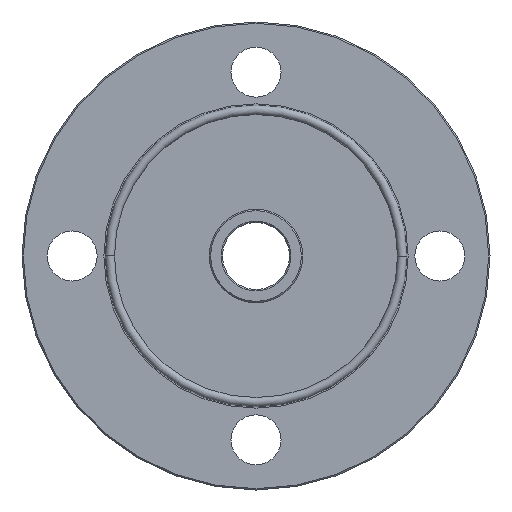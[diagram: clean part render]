
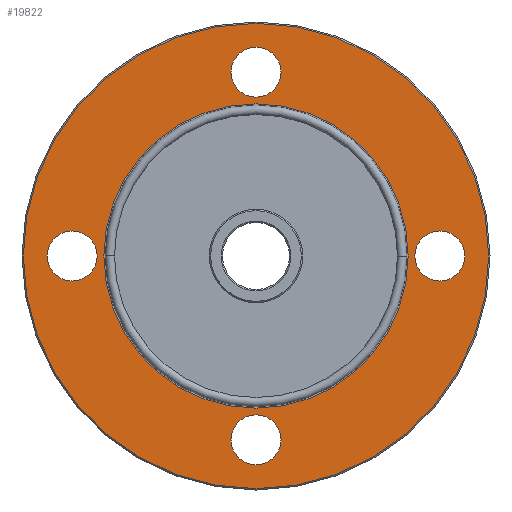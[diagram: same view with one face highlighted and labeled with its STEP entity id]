
A CAD part, left-side view. The second image highlights one B-rep face of the part: STEP entity #19822.
In plain terms, the highlighted planar face has unit normal (-1, 0, 0).
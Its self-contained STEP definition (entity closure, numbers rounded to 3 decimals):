
#401 = DIRECTION ( 'NONE',  ( 0., -1., 0. ) ) ;
#402 = DIRECTION ( 'NONE',  ( -1., 0., 0. ) ) ;
#403 = CARTESIAN_POINT ( 'NONE',  ( 0., 0., 0. ) ) ;
#404 = AXIS2_PLACEMENT_3D ( 'NONE', #403, #402, #401 ) ;
#405 = CIRCLE ( 'NONE', #404, 88.4 ) ;
#406 = DIRECTION ( 'NONE',  ( 0., -1., 0. ) ) ;
#407 = DIRECTION ( 'NONE',  ( -1., 0., 0. ) ) ;
#408 = CARTESIAN_POINT ( 'NONE',  ( 0., 0., 0. ) ) ;
#409 = AXIS2_PLACEMENT_3D ( 'NONE', #408, #407, #406 ) ;
#410 = PLANE ( 'NONE',  #409 ) ;
#411 = FACE_BOUND ( 'NONE', #19867, .T. ) ;
#412 = FACE_BOUND ( 'NONE', #19890, .T. ) ;
#413 = FACE_BOUND ( 'NONE', #19886, .T. ) ;
#414 = FACE_BOUND ( 'NONE', #19882, .T. ) ;
#415 = FACE_BOUND ( 'NONE', #19827, .T. ) ;
#416 = FACE_OUTER_BOUND ( 'NONE', #19823, .T. ) ;
#493 = DIRECTION ( 'NONE',  ( -1., 0., 0. ) ) ;
#494 = CARTESIAN_POINT ( 'NONE',  ( 0., 0., -69.85 ) ) ;
#495 = AXIS2_PLACEMENT_3D ( 'NONE', #494, #493, #551 ) ;
#496 = CIRCLE ( 'NONE', #495, 9.5 ) ;
#497 = DIRECTION ( 'NONE',  ( 0., -1., 0. ) ) ;
#498 = DIRECTION ( 'NONE',  ( -1., 0., 0. ) ) ;
#499 = CARTESIAN_POINT ( 'NONE',  ( 0., 69.85, 0. ) ) ;
#500 = AXIS2_PLACEMENT_3D ( 'NONE', #499, #498, #497 ) ;
#501 = CIRCLE ( 'NONE', #500, 9.5 ) ;
#513 = DIRECTION ( 'NONE',  ( 0., -1., 0. ) ) ;
#514 = DIRECTION ( 'NONE',  ( -1., 0., 0. ) ) ;
#515 = CARTESIAN_POINT ( 'NONE',  ( 0., 0., 0. ) ) ;
#516 = AXIS2_PLACEMENT_3D ( 'NONE', #515, #514, #513 ) ;
#517 = CIRCLE ( 'NONE', #516, 57.8 ) ;
#541 = DIRECTION ( 'NONE',  ( 0., 0., -1. ) ) ;
#542 = DIRECTION ( 'NONE',  ( -1., 0., 0. ) ) ;
#543 = CARTESIAN_POINT ( 'NONE',  ( 0., 0., 69.85 ) ) ;
#544 = AXIS2_PLACEMENT_3D ( 'NONE', #543, #542, #541 ) ;
#545 = CIRCLE ( 'NONE', #544, 9.5 ) ;
#546 = DIRECTION ( 'NONE',  ( 0., 1., 0. ) ) ;
#547 = DIRECTION ( 'NONE',  ( -1., 0., 0. ) ) ;
#548 = CARTESIAN_POINT ( 'NONE',  ( 0., -69.85, 0. ) ) ;
#549 = AXIS2_PLACEMENT_3D ( 'NONE', #548, #547, #546 ) ;
#550 = CIRCLE ( 'NONE', #549, 9.5 ) ;
#551 = DIRECTION ( 'NONE',  ( 0., 0., 1. ) ) ;
#18193 = VERTEX_POINT ( 'NONE', #26327 ) ;
#18225 = VERTEX_POINT ( 'NONE', #26400 ) ;
#18259 = VERTEX_POINT ( 'NONE', #26490 ) ;
#18261 = EDGE_CURVE ( 'NONE', #18259, #18262, #26489, .T. ) ;
#18262 = VERTEX_POINT ( 'NONE', #26484 ) ;
#18271 = VERTEX_POINT ( 'NONE', #26525 ) ;
#18284 = VERTEX_POINT ( 'NONE', #26554 ) ;
#18286 = EDGE_CURVE ( 'NONE', #18284, #18287, #26553, .T. ) ;
#18287 = VERTEX_POINT ( 'NONE', #26596 ) ;
#18296 = EDGE_CURVE ( 'NONE', #18271, #18225, #26579, .T. ) ;
#18301 = VERTEX_POINT ( 'NONE', #26627 ) ;
#18302 = EDGE_CURVE ( 'NONE', #18193, #18301, #26625, .T. ) ;
#18304 = EDGE_CURVE ( 'NONE', #18310, #18308, #26620, .T. ) ;
#18308 = VERTEX_POINT ( 'NONE', #26616 ) ;
#18310 = VERTEX_POINT ( 'NONE', #26611 ) ;
#19147 = EDGE_CURVE ( 'NONE', #19148, #19149, #33139, .T. ) ;
#19148 = VERTEX_POINT ( 'NONE', #33196 ) ;
#19149 = VERTEX_POINT ( 'NONE', #33195 ) ;
#19822 = ADVANCED_FACE ( 'NONE', ( #416, #415, #414, #413, #412, #411 ), #410, .T. ) ;
#19823 = EDGE_LOOP ( 'NONE', ( #19824, #19826 ) ) ;
#19824 = ORIENTED_EDGE ( 'NONE', *, *, #19825, .T. ) ;
#19825 = EDGE_CURVE ( 'NONE', #19149, #19148, #405, .T. ) ;
#19826 = ORIENTED_EDGE ( 'NONE', *, *, #19147, .T. ) ;
#19827 = EDGE_LOOP ( 'NONE', ( #19879, #19881 ) ) ;
#19866 = ORIENTED_EDGE ( 'NONE', *, *, #18261, .F. ) ;
#19867 = EDGE_LOOP ( 'NONE', ( #19868, #19870 ) ) ;
#19868 = ORIENTED_EDGE ( 'NONE', *, *, #19869, .F. ) ;
#19869 = EDGE_CURVE ( 'NONE', #18287, #18284, #517, .T. ) ;
#19870 = ORIENTED_EDGE ( 'NONE', *, *, #18286, .F. ) ;
#19879 = ORIENTED_EDGE ( 'NONE', *, *, #19880, .F. ) ;
#19880 = EDGE_CURVE ( 'NONE', #18308, #18310, #501, .T. ) ;
#19881 = ORIENTED_EDGE ( 'NONE', *, *, #18304, .F. ) ;
#19882 = EDGE_LOOP ( 'NONE', ( #19883, #19885 ) ) ;
#19883 = ORIENTED_EDGE ( 'NONE', *, *, #19884, .F. ) ;
#19884 = EDGE_CURVE ( 'NONE', #18301, #18193, #496, .T. ) ;
#19885 = ORIENTED_EDGE ( 'NONE', *, *, #18302, .F. ) ;
#19886 = EDGE_LOOP ( 'NONE', ( #19887, #19889 ) ) ;
#19887 = ORIENTED_EDGE ( 'NONE', *, *, #19888, .F. ) ;
#19888 = EDGE_CURVE ( 'NONE', #18225, #18271, #550, .T. ) ;
#19889 = ORIENTED_EDGE ( 'NONE', *, *, #18296, .F. ) ;
#19890 = EDGE_LOOP ( 'NONE', ( #19891, #19866 ) ) ;
#19891 = ORIENTED_EDGE ( 'NONE', *, *, #19892, .F. ) ;
#19892 = EDGE_CURVE ( 'NONE', #18262, #18259, #545, .T. ) ;
#26327 = CARTESIAN_POINT ( 'NONE',  ( 0., 9.5, -69.85 ) ) ;
#26400 = CARTESIAN_POINT ( 'NONE',  ( 0., -79.35, 0. ) ) ;
#26484 = CARTESIAN_POINT ( 'NONE',  ( 0., -9.5, 69.85 ) ) ;
#26485 = DIRECTION ( 'NONE',  ( 0., 0., -1. ) ) ;
#26486 = DIRECTION ( 'NONE',  ( -1., 0., 0. ) ) ;
#26487 = CARTESIAN_POINT ( 'NONE',  ( 0., 0., 69.85 ) ) ;
#26488 = AXIS2_PLACEMENT_3D ( 'NONE', #26487, #26486, #26485 ) ;
#26489 = CIRCLE ( 'NONE', #26488, 9.5 ) ;
#26490 = CARTESIAN_POINT ( 'NONE',  ( 0., 9.5, 69.85 ) ) ;
#26525 = CARTESIAN_POINT ( 'NONE',  ( 0., -60.35, 0. ) ) ;
#26553 = CIRCLE ( 'NONE', #26600, 57.8 ) ;
#26554 = CARTESIAN_POINT ( 'NONE',  ( 0., 57.8, 0. ) ) ;
#26575 = DIRECTION ( 'NONE',  ( 0., 1., 0. ) ) ;
#26576 = DIRECTION ( 'NONE',  ( -1., 0., 0. ) ) ;
#26577 = CARTESIAN_POINT ( 'NONE',  ( 0., -69.85, 0. ) ) ;
#26578 = AXIS2_PLACEMENT_3D ( 'NONE', #26577, #26576, #26575 ) ;
#26579 = CIRCLE ( 'NONE', #26578, 9.5 ) ;
#26596 = CARTESIAN_POINT ( 'NONE',  ( 0., -57.8, 0. ) ) ;
#26597 = DIRECTION ( 'NONE',  ( 0., -1., 0. ) ) ;
#26598 = DIRECTION ( 'NONE',  ( -1., 0., 0. ) ) ;
#26599 = CARTESIAN_POINT ( 'NONE',  ( 0., 0., 0. ) ) ;
#26600 = AXIS2_PLACEMENT_3D ( 'NONE', #26599, #26598, #26597 ) ;
#26611 = CARTESIAN_POINT ( 'NONE',  ( 0., 79.35, 0. ) ) ;
#26616 = CARTESIAN_POINT ( 'NONE',  ( 0., 60.35, 0. ) ) ;
#26617 = DIRECTION ( 'NONE',  ( 0., -1., 0. ) ) ;
#26618 = DIRECTION ( 'NONE',  ( -1., 0., 0. ) ) ;
#26619 = AXIS2_PLACEMENT_3D ( 'NONE', #26626, #26618, #26617 ) ;
#26620 = CIRCLE ( 'NONE', #26619, 9.5 ) ;
#26621 = DIRECTION ( 'NONE',  ( 0., 0., 1. ) ) ;
#26622 = DIRECTION ( 'NONE',  ( -1., 0., 0. ) ) ;
#26623 = CARTESIAN_POINT ( 'NONE',  ( 0., 0., -69.85 ) ) ;
#26624 = AXIS2_PLACEMENT_3D ( 'NONE', #26623, #26622, #26621 ) ;
#26625 = CIRCLE ( 'NONE', #26624, 9.5 ) ;
#26626 = CARTESIAN_POINT ( 'NONE',  ( 0., 69.85, 0. ) ) ;
#26627 = CARTESIAN_POINT ( 'NONE',  ( 0., -9.5, -69.85 ) ) ;
#33139 = CIRCLE ( 'NONE', #33200, 88.4 ) ;
#33195 = CARTESIAN_POINT ( 'NONE',  ( 0., 88.4, 0. ) ) ;
#33196 = CARTESIAN_POINT ( 'NONE',  ( 0., -88.4, 0. ) ) ;
#33197 = DIRECTION ( 'NONE',  ( 0., -1., 0. ) ) ;
#33198 = DIRECTION ( 'NONE',  ( -1., 0., 0. ) ) ;
#33199 = CARTESIAN_POINT ( 'NONE',  ( 0., 0., 0. ) ) ;
#33200 = AXIS2_PLACEMENT_3D ( 'NONE', #33199, #33198, #33197 ) ;
